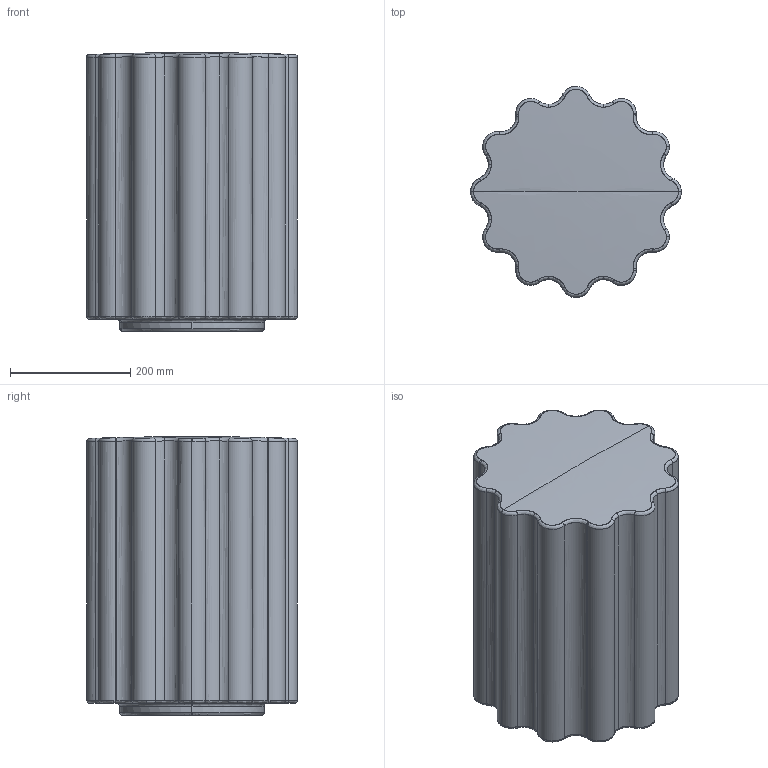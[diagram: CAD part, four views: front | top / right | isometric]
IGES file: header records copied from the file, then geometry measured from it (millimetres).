
Start section: OMNICAD :convertitore Iges
Global section: file name: C:\Users\rendering\Desktop\3d host\CONSEGNA\3d_Colonna_Ettore Sottsass_Kartell.igs; native system: Rhinoceros ( May 22 2017 ); preprocessor: Trout Lake IGES 012 May 22 2017; date: 171013.150407; units: millimetre
Bounding box: 350 x 349.99 x 463 mm (x, y, z)
Surface area: 717207.6 mm2 (no closed solid volume)
Topology: 0 solids, 0 shells, 130 faces, 3332 edges, 3332 vertices
Faces by surface type: bspline 130
